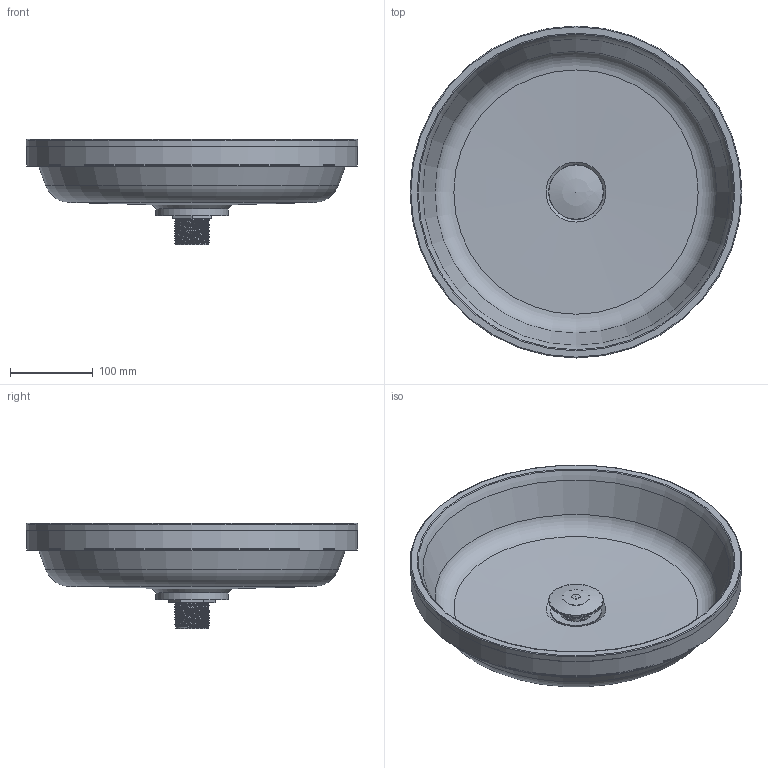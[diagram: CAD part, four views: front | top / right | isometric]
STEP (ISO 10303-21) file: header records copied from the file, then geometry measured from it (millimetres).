
FILE_DESCRIPTION(/* description */ (''),/* implementation_level */ '2;1');
FILE_NAME(/* name */ '人造石400J.stp',/* time_stamp */ '2024-06-13T15:04:31+08:00',/* author */ (''),/* organization */ (''),/* preprocessor_version */ 'ST-DEVELOPER v16',/* originating_system */ 'SIEMENS PLM Software NX 10.0',/* authorisation */ '');
FILE_SCHEMA (('AP203_CONFIGURATION_CONTROLLED_3D_DESIGN_OF_MECHANICAL_PARTS_AND_ASSEMBLIES_MIM_LF { 1 0 10303 403 2 1 2}'));
Length unit declared in the file: millimetre
Products named in the file (1): Admi1AE48AC5090c
Bounding box: 400 x 400 x 126.61 mm (x, y, z)
Volume: 1559975.7 mm3; surface area: 510362.1 mm2
Topology: 12 solids, 12 shells, 148 faces, 341 edges, 225 vertices
Faces by surface type: cylinder 60, plane 52, cone 17, torus 9, sphere 4, bspline 4, revolution 2
Full cylindrical faces by diameter (mm): 7 x1, 8 x1, 10 x1, 11.5 x1, 12 x1, 14 x1, 16 x2, 31 x1, 33 x2, 35 x2, 36 x1, 37.5 x1, 38 x1, 38.5 x1, 39 x23, 40.5 x1, 42 x1, 45 x1, 60 x2, 60.5 x1, 63 x1, 66 x1, 87 x1, 376 x1, 396 x3, 398 x1, 400 x1
Entity records: 10210 total; most frequent: CARTESIAN_POINT 7729, DIRECTION 516, ORIENTED_EDGE 358, AXIS2_PLACEMENT_3D 228, EDGE_LOOP 220, FACE_BOUND 184, EDGE_CURVE 179, VERTEX_POINT 149
